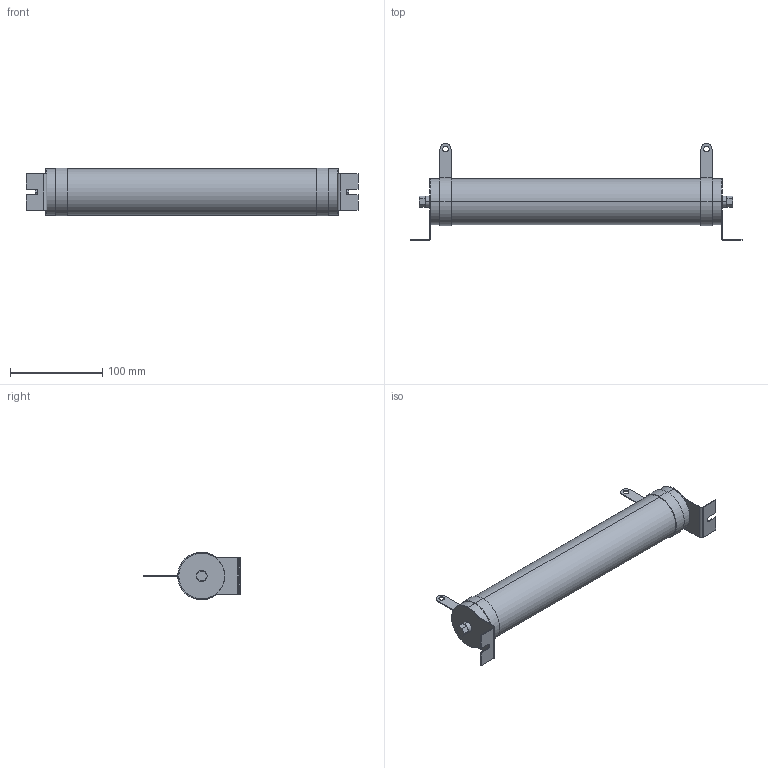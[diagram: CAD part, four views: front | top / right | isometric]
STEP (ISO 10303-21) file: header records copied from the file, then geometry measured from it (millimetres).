
FILE_DESCRIPTION (( 'STEP AP203' ), '1' );
FILE_NAME ('IRT-180-600.STEP', '2022-11-16T11:57:55', ( '' ), ( '' ), 'SwSTEP 2.0', 'SolidWorks 2018', '' );
FILE_SCHEMA (( 'CONFIG_CONTROL_DESIGN' ));
Length unit declared in the file: millimetre
Products named in the file (1): IRT-180-600
Bounding box: 360 x 105 x 52 mm (x, y, z)
Volume: 632461.9 mm3; surface area: 63703.3 mm2
Topology: 1 solids, 1 shells, 98 faces, 234 edges, 148 vertices
Faces by surface type: plane 56, cylinder 42
Entity records: 2927 total; most frequent: DIRECTION 528, CARTESIAN_POINT 481, ORIENTED_EDGE 468, EDGE_CURVE 234, AXIS2_PLACEMENT_3D 195, VERTEX_POINT 148, LINE 138, VECTOR 138
